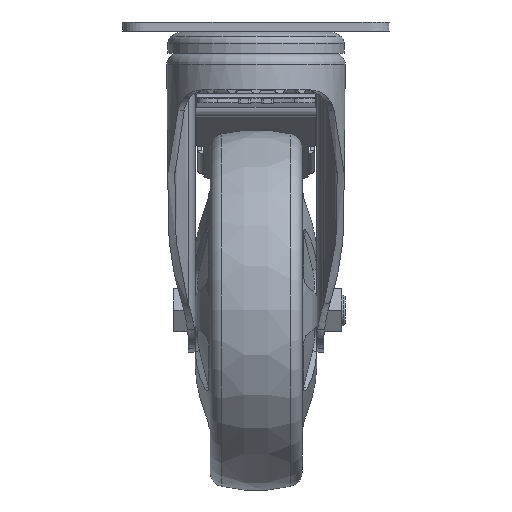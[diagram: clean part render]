
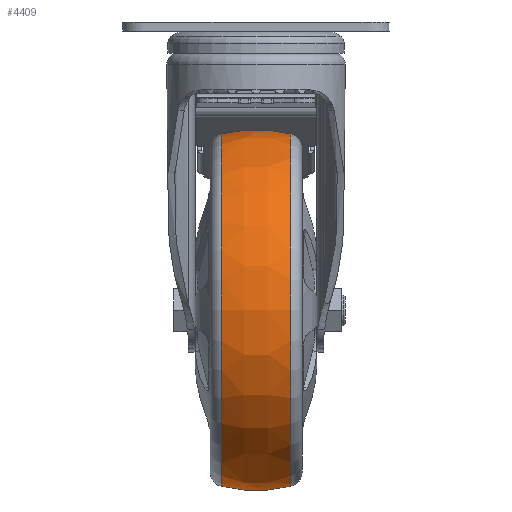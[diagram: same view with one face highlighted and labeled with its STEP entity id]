
A CAD part, left-side view. The second image highlights one B-rep face of the part: STEP entity #4409.
In plain terms, the highlighted free-form (B-spline) face has degree [3, 3] with [4, 7] control points.
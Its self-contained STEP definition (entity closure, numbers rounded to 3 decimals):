
#4409=ADVANCED_FACE('',(#6696,#6697),#5549,.T.);
#5549=(
BOUNDED_SURFACE()
B_SPLINE_SURFACE(3,3,((#27367,#27368,#27369,#27370,#27371,#27372,#27373),
(#27374,#27375,#27376,#27377,#27378,#27379,#27380),(#27381,#27382,#27383,
#27384,#27385,#27386,#27387),(#27388,#27389,#27390,#27391,#27392,#27393,
#27394)),.UNSPECIFIED.,.F.,.T.,.F.)
B_SPLINE_SURFACE_WITH_KNOTS((4,4),(1,3,3,3,1),(0.,1.),(-0.5,0.,0.5,1.,1.5),
 .UNSPECIFIED.)
GEOMETRIC_REPRESENTATION_ITEM()
RATIONAL_B_SPLINE_SURFACE(((1.,0.333,0.333,1.,0.333,
0.333,1.),(0.982,0.327,0.327,
0.982,0.327,0.327,0.982),
(0.982,0.327,0.327,0.982,
0.327,0.327,0.982),(1.,0.333,
0.333,1.,0.333,0.333,1.)))
REPRESENTATION_ITEM('')
SURFACE()
);
#6696=FACE_BOUND('',#7096,.T.);
#6697=FACE_BOUND('',#7097,.T.);
#7096=EDGE_LOOP('',(#8594));
#7097=EDGE_LOOP('',(#8595));
#8594=ORIENTED_EDGE('',*,*,#16365,.T.);
#8595=ORIENTED_EDGE('',*,*,#16366,.T.);
#14416=VERTEX_POINT('',#27364);
#14417=VERTEX_POINT('',#27366);
#16365=EDGE_CURVE('',#14416,#14416,#19162,.T.);
#16366=EDGE_CURVE('',#14417,#14417,#19163,.T.);
#19162=CIRCLE('',#19848,48.859);
#19163=CIRCLE('',#19849,48.859);
#19848=AXIS2_PLACEMENT_3D('',#27363,#21575,#21576);
#19849=AXIS2_PLACEMENT_3D('',#27365,#21577,#21578);
#21575=DIRECTION('',(0.,1.,0.));
#21576=DIRECTION('',(0.,0.,1.));
#21577=DIRECTION('',(0.,-1.,0.));
#21578=DIRECTION('',(0.,0.,-1.));
#27363=CARTESIAN_POINT('',(34.,-9.708,-80.));
#27364=CARTESIAN_POINT('',(34.,-9.708,-31.141));
#27365=CARTESIAN_POINT('',(34.,9.652,-80.));
#27366=CARTESIAN_POINT('',(34.,9.652,-128.859));
#27367=CARTESIAN_POINT('',(34.,-9.708,-128.859));
#27368=CARTESIAN_POINT('',(131.719,-9.708,-128.859));
#27369=CARTESIAN_POINT('',(131.719,-9.708,-31.141));
#27370=CARTESIAN_POINT('',(34.,-9.708,-31.141));
#27371=CARTESIAN_POINT('',(-63.719,-9.708,-31.141));
#27372=CARTESIAN_POINT('',(-63.719,-9.708,-128.859));
#27373=CARTESIAN_POINT('',(34.,-9.708,-128.859));
#27374=CARTESIAN_POINT('',(34.,-3.315,-130.387));
#27375=CARTESIAN_POINT('',(134.775,-3.315,-130.387));
#27376=CARTESIAN_POINT('',(134.775,-3.315,-29.613));
#27377=CARTESIAN_POINT('',(34.,-3.315,-29.613));
#27378=CARTESIAN_POINT('',(-66.775,-3.315,-29.613));
#27379=CARTESIAN_POINT('',(-66.775,-3.315,-130.387));
#27380=CARTESIAN_POINT('',(34.,-3.315,-130.387));
#27381=CARTESIAN_POINT('',(34.,3.259,-130.387));
#27382=CARTESIAN_POINT('',(134.775,3.259,-130.387));
#27383=CARTESIAN_POINT('',(134.775,3.259,-29.613));
#27384=CARTESIAN_POINT('',(34.,3.259,-29.613));
#27385=CARTESIAN_POINT('',(-66.775,3.259,-29.613));
#27386=CARTESIAN_POINT('',(-66.775,3.259,-130.387));
#27387=CARTESIAN_POINT('',(34.,3.259,-130.387));
#27388=CARTESIAN_POINT('',(34.,9.652,-128.859));
#27389=CARTESIAN_POINT('',(131.719,9.652,-128.859));
#27390=CARTESIAN_POINT('',(131.719,9.652,-31.141));
#27391=CARTESIAN_POINT('',(34.,9.652,-31.141));
#27392=CARTESIAN_POINT('',(-63.719,9.652,-31.141));
#27393=CARTESIAN_POINT('',(-63.719,9.652,-128.859));
#27394=CARTESIAN_POINT('',(34.,9.652,-128.859));
